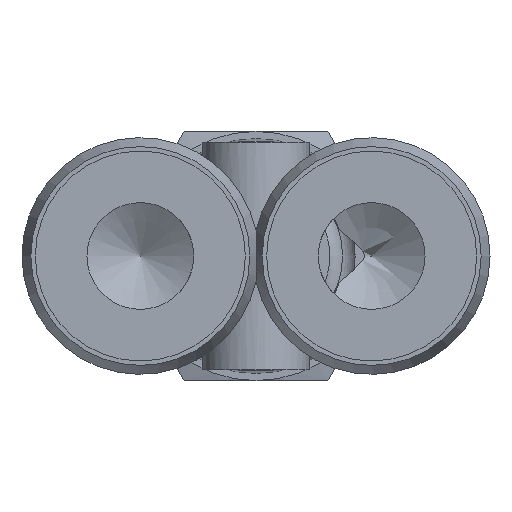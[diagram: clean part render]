
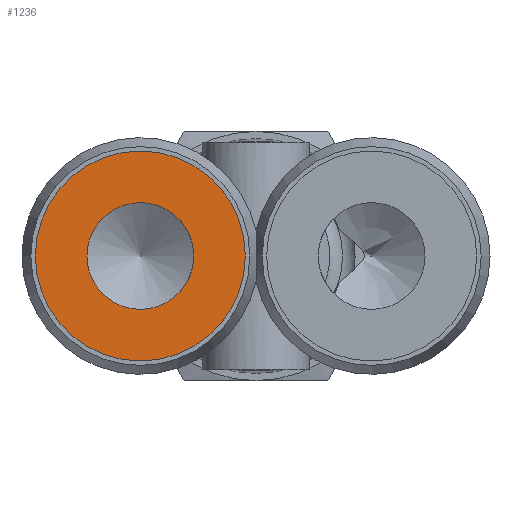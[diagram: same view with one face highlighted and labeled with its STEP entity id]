
A CAD part, front view. The second image highlights one B-rep face of the part: STEP entity #1236.
In plain terms, the highlighted planar face has unit normal (0, -1, 0).
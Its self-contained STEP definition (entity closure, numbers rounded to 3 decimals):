
#100=FACE_BOUND('',#242,.T.);
#116=PLANE('',#1378);
#164=FACE_OUTER_BOUND('',#241,.T.);
#241=EDGE_LOOP('',(#990,#991));
#242=EDGE_LOOP('',(#992,#993));
#409=CIRCLE('',#1342,3.);
#410=CIRCLE('',#1343,3.);
#429=CIRCLE('',#1376,5.9);
#430=CIRCLE('',#1377,5.9);
#526=VERTEX_POINT('',#2289);
#527=VERTEX_POINT('',#2290);
#551=VERTEX_POINT('',#2421);
#552=VERTEX_POINT('',#2422);
#674=EDGE_CURVE('',#526,#527,#409,.T.);
#675=EDGE_CURVE('',#527,#526,#410,.T.);
#712=EDGE_CURVE('',#551,#552,#429,.T.);
#714=EDGE_CURVE('',#552,#551,#430,.T.);
#990=ORIENTED_EDGE('',*,*,#712,.F.);
#991=ORIENTED_EDGE('',*,*,#714,.F.);
#992=ORIENTED_EDGE('',*,*,#674,.T.);
#993=ORIENTED_EDGE('',*,*,#675,.T.);
#1236=ADVANCED_FACE('',(#164,#100),#116,.F.);
#1342=AXIS2_PLACEMENT_3D('',#2291,#1574,#1575);
#1343=AXIS2_PLACEMENT_3D('',#2292,#1576,#1577);
#1376=AXIS2_PLACEMENT_3D('',#2423,#1654,#1655);
#1377=AXIS2_PLACEMENT_3D('',#2425,#1657,#1658);
#1378=AXIS2_PLACEMENT_3D('',#2426,#1659,#1660);
#1574=DIRECTION('center_axis',(0.,1.,0.));
#1575=DIRECTION('ref_axis',(1.,0.,0.));
#1576=DIRECTION('center_axis',(0.,1.,0.));
#1577=DIRECTION('ref_axis',(1.,0.,0.));
#1654=DIRECTION('center_axis',(0.,1.,0.));
#1655=DIRECTION('ref_axis',(-1.,0.,0.));
#1657=DIRECTION('center_axis',(0.,1.,0.));
#1658=DIRECTION('ref_axis',(-1.,0.,0.));
#1659=DIRECTION('center_axis',(0.,1.,0.));
#1660=DIRECTION('ref_axis',(0.,0.,-1.));
#2289=CARTESIAN_POINT('',(-3.5,-14.4,0.));
#2290=CARTESIAN_POINT('',(-9.5,-14.4,0.));
#2291=CARTESIAN_POINT('Origin',(-6.5,-14.4,0.));
#2292=CARTESIAN_POINT('Origin',(-6.5,-14.4,0.));
#2421=CARTESIAN_POINT('',(-12.4,-14.4,0.));
#2422=CARTESIAN_POINT('',(-0.6,-14.4,0.));
#2423=CARTESIAN_POINT('Origin',(-6.5,-14.4,0.));
#2425=CARTESIAN_POINT('Origin',(-6.5,-14.4,0.));
#2426=CARTESIAN_POINT('Origin',(-6.5,-14.4,0.));
